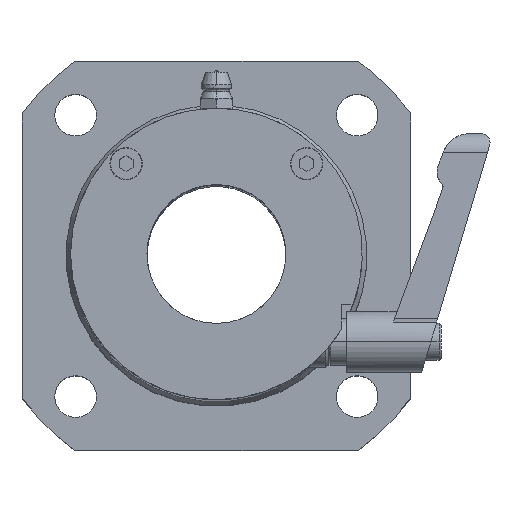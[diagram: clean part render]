
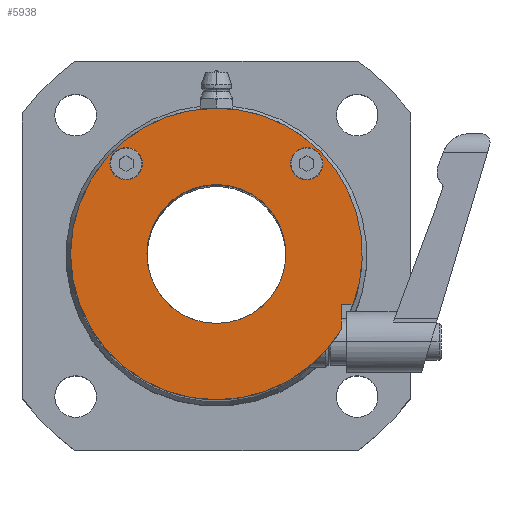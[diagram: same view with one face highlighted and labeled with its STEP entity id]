
A CAD part, top view. The second image highlights one B-rep face of the part: STEP entity #5938.
In plain terms, the highlighted planar face has unit normal (0, 0, 1).
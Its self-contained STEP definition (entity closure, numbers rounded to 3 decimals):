
#88 = VERTEX_POINT ( 'NONE', #3898 ) ;
#159 = CIRCLE ( 'NONE', #4519, 31.5 ) ;
#213 = CARTESIAN_POINT ( 'NONE',  ( -21.596, 20.022, 70.5 ) ) ;
#217 = VERTEX_POINT ( 'NONE', #10261 ) ;
#236 = DIRECTION ( 'NONE',  ( 0., 0., 1. ) ) ;
#247 = AXIS2_PLACEMENT_3D ( 'NONE', #4380, #4277, #7058 ) ;
#542 = ORIENTED_EDGE ( 'NONE', *, *, #11208, .F. ) ;
#568 = CARTESIAN_POINT ( 'NONE',  ( 21.404, -10.478, 70.5 ) ) ;
#640 = CIRCLE ( 'NONE', #5019, 31.5 ) ;
#822 = DIRECTION ( 'NONE',  ( 0., 0., 1. ) ) ;
#990 = CIRCLE ( 'NONE', #247, 15. ) ;
#1006 = DIRECTION ( 'NONE',  ( 0., -1., 0. ) ) ;
#1354 = AXIS2_PLACEMENT_3D ( 'NONE', #3570, #5429, #2543 ) ;
#1488 = EDGE_CURVE ( 'NONE', #11544, #4611, #990, .T. ) ;
#1830 = ORIENTED_EDGE ( 'NONE', *, *, #5697, .F. ) ;
#1851 = FACE_BOUND ( 'NONE', #7547, .T. ) ;
#1866 = EDGE_CURVE ( 'NONE', #217, #9578, #159, .T. ) ;
#2018 = CARTESIAN_POINT ( 'NONE',  ( -5.596, 0.522, 70.5 ) ) ;
#2260 = AXIS2_PLACEMENT_3D ( 'NONE', #10233, #11089, #6585 ) ;
#2459 = CARTESIAN_POINT ( 'NONE',  ( -5.596, -30.978, 70.5 ) ) ;
#2512 = EDGE_CURVE ( 'NONE', #3196, #7434, #11307, .T. ) ;
#2543 = DIRECTION ( 'NONE',  ( 1., 0., 0. ) ) ;
#2661 = DIRECTION ( 'NONE',  ( 1., 0., 0. ) ) ;
#2664 = CARTESIAN_POINT ( 'NONE',  ( -5.596, 0.522, 70.5 ) ) ;
#2729 = VERTEX_POINT ( 'NONE', #7518 ) ;
#3196 = VERTEX_POINT ( 'NONE', #10305 ) ;
#3288 = CARTESIAN_POINT ( 'NONE',  ( 21.404, -10.478, 70.5 ) ) ;
#3318 = AXIS2_PLACEMENT_3D ( 'NONE', #2664, #822, #5327 ) ;
#3520 = CARTESIAN_POINT ( 'NONE',  ( -25.096, 20.022, 70.5 ) ) ;
#3570 = CARTESIAN_POINT ( 'NONE',  ( 13.904, 20.022, 70.5 ) ) ;
#3784 = FACE_BOUND ( 'NONE', #10718, .T. ) ;
#3898 = CARTESIAN_POINT ( 'NONE',  ( 21.404, -10.478, 70.5 ) ) ;
#4100 = VERTEX_POINT ( 'NONE', #9330 ) ;
#4205 = DIRECTION ( 'NONE',  ( 0., -1., 0. ) ) ;
#4277 = DIRECTION ( 'NONE',  ( 0., 0., 1. ) ) ;
#4314 = EDGE_CURVE ( 'NONE', #9578, #5476, #7109, .T. ) ;
#4380 = CARTESIAN_POINT ( 'NONE',  ( -5.596, 0.522, 70.5 ) ) ;
#4456 = CARTESIAN_POINT ( 'NONE',  ( 10.404, 20.022, 70.5 ) ) ;
#4519 = AXIS2_PLACEMENT_3D ( 'NONE', #2018, #236, #8466 ) ;
#4570 = ORIENTED_EDGE ( 'NONE', *, *, #10117, .F. ) ;
#4611 = VERTEX_POINT ( 'NONE', #10524 ) ;
#4717 = CARTESIAN_POINT ( 'NONE',  ( 21.404, -15.703, 70.5 ) ) ;
#4748 = ORIENTED_EDGE ( 'NONE', *, *, #4314, .T. ) ;
#4850 = DIRECTION ( 'NONE',  ( 1., 0., 0. ) ) ;
#4882 = EDGE_CURVE ( 'NONE', #2729, #88, #6982, .T. ) ;
#5019 = AXIS2_PLACEMENT_3D ( 'NONE', #7046, #9263, #1006 ) ;
#5148 = ORIENTED_EDGE ( 'NONE', *, *, #4882, .F. ) ;
#5327 = DIRECTION ( 'NONE',  ( 0., -1., 0. ) ) ;
#5429 = DIRECTION ( 'NONE',  ( 0., 0., 1. ) ) ;
#5476 = VERTEX_POINT ( 'NONE', #4717 ) ;
#5610 = CIRCLE ( 'NONE', #6557, 3.5 ) ;
#5697 = EDGE_CURVE ( 'NONE', #6467, #4100, #6453, .T. ) ;
#5758 = DIRECTION ( 'NONE',  ( 0., 0., 1. ) ) ;
#5938 = ADVANCED_FACE ( 'NONE', ( #11697, #3784, #10059, #1851 ), #8194, .T. ) ;
#6196 = ORIENTED_EDGE ( 'NONE', *, *, #9657, .F. ) ;
#6351 = VECTOR ( 'NONE', #7700, 1000. ) ;
#6436 = DIRECTION ( 'NONE',  ( 0., 0., 1. ) ) ;
#6453 = CIRCLE ( 'NONE', #11772, 3.5 ) ;
#6467 = VERTEX_POINT ( 'NONE', #4456 ) ;
#6473 = CARTESIAN_POINT ( 'NONE',  ( -5.596, 15.522, 70.5 ) ) ;
#6557 = AXIS2_PLACEMENT_3D ( 'NONE', #3520, #6436, #7251 ) ;
#6585 = DIRECTION ( 'NONE',  ( 0., -1., 0. ) ) ;
#6664 = CARTESIAN_POINT ( 'NONE',  ( -25.096, 20.022, 70.5 ) ) ;
#6862 = ORIENTED_EDGE ( 'NONE', *, *, #1866, .T. ) ;
#6977 = DIRECTION ( 'NONE',  ( 0., 0., 1. ) ) ;
#6982 = LINE ( 'NONE', #3288, #6351 ) ;
#7046 = CARTESIAN_POINT ( 'NONE',  ( -5.596, 0.522, 70.5 ) ) ;
#7058 = DIRECTION ( 'NONE',  ( 0., -1., 0. ) ) ;
#7109 = CIRCLE ( 'NONE', #3318, 31.5 ) ;
#7251 = DIRECTION ( 'NONE',  ( 1., 0., 0. ) ) ;
#7255 = DIRECTION ( 'NONE',  ( 0., 0., 1. ) ) ;
#7434 = VERTEX_POINT ( 'NONE', #213 ) ;
#7505 = EDGE_LOOP ( 'NONE', ( #6196, #5148, #11360, #6862, #4748 ) ) ;
#7518 = CARTESIAN_POINT ( 'NONE',  ( 23.921, -10.478, 70.5 ) ) ;
#7547 = EDGE_LOOP ( 'NONE', ( #10060, #11103 ) ) ;
#7565 = CIRCLE ( 'NONE', #11169, 15. ) ;
#7658 = EDGE_LOOP ( 'NONE', ( #1830, #542 ) ) ;
#7689 = VECTOR ( 'NONE', #4205, 1000. ) ;
#7700 = DIRECTION ( 'NONE',  ( -1., 0., 0. ) ) ;
#7752 = ORIENTED_EDGE ( 'NONE', *, *, #2512, .F. ) ;
#8077 = EDGE_CURVE ( 'NONE', #4611, #11544, #7565, .T. ) ;
#8194 = PLANE ( 'NONE',  #2260 ) ;
#8466 = DIRECTION ( 'NONE',  ( 0., -1., 0. ) ) ;
#8649 = DIRECTION ( 'NONE',  ( 0., -1., 0. ) ) ;
#8741 = LINE ( 'NONE', #568, #7689 ) ;
#9263 = DIRECTION ( 'NONE',  ( 0., 0., 1. ) ) ;
#9330 = CARTESIAN_POINT ( 'NONE',  ( 17.404, 20.022, 70.5 ) ) ;
#9578 = VERTEX_POINT ( 'NONE', #2459 ) ;
#9657 = EDGE_CURVE ( 'NONE', #88, #5476, #8741, .T. ) ;
#9679 = EDGE_CURVE ( 'NONE', #2729, #217, #640, .T. ) ;
#10059 = FACE_OUTER_BOUND ( 'NONE', #7505, .T. ) ;
#10060 = ORIENTED_EDGE ( 'NONE', *, *, #1488, .F. ) ;
#10117 = EDGE_CURVE ( 'NONE', #7434, #3196, #5610, .T. ) ;
#10146 = CIRCLE ( 'NONE', #1354, 3.5 ) ;
#10233 = CARTESIAN_POINT ( 'NONE',  ( -5.596, 0.522, 70.5 ) ) ;
#10261 = CARTESIAN_POINT ( 'NONE',  ( -5.596, 32.022, 70.5 ) ) ;
#10305 = CARTESIAN_POINT ( 'NONE',  ( -28.596, 20.022, 70.5 ) ) ;
#10511 = CARTESIAN_POINT ( 'NONE',  ( -5.596, 0.522, 70.5 ) ) ;
#10524 = CARTESIAN_POINT ( 'NONE',  ( -5.596, -14.478, 70.5 ) ) ;
#10718 = EDGE_LOOP ( 'NONE', ( #7752, #4570 ) ) ;
#10747 = AXIS2_PLACEMENT_3D ( 'NONE', #6664, #5758, #4850 ) ;
#10847 = CARTESIAN_POINT ( 'NONE',  ( 13.904, 20.022, 70.5 ) ) ;
#11089 = DIRECTION ( 'NONE',  ( 0., 0., 1. ) ) ;
#11103 = ORIENTED_EDGE ( 'NONE', *, *, #8077, .F. ) ;
#11169 = AXIS2_PLACEMENT_3D ( 'NONE', #10511, #6977, #8649 ) ;
#11208 = EDGE_CURVE ( 'NONE', #4100, #6467, #10146, .T. ) ;
#11307 = CIRCLE ( 'NONE', #10747, 3.5 ) ;
#11360 = ORIENTED_EDGE ( 'NONE', *, *, #9679, .T. ) ;
#11544 = VERTEX_POINT ( 'NONE', #6473 ) ;
#11697 = FACE_BOUND ( 'NONE', #7658, .T. ) ;
#11772 = AXIS2_PLACEMENT_3D ( 'NONE', #10847, #7255, #2661 ) ;
